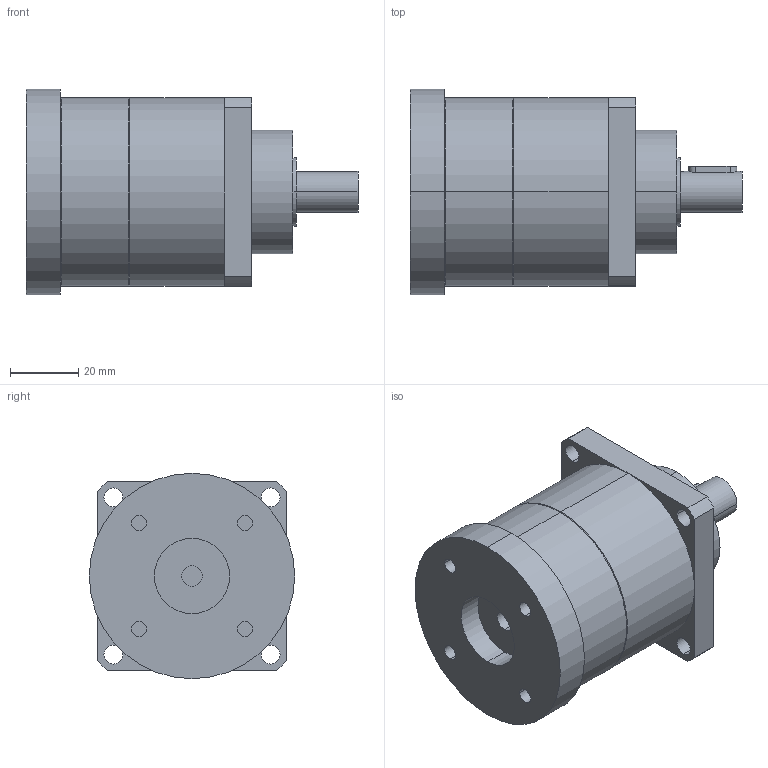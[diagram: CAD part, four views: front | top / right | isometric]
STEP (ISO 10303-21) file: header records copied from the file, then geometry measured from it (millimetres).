
FILE_DESCRIPTION(('CoCreate Modeling STEP Export'),'2;1');
FILE_NAME('GPT55_ig-3-4-5-7-10_12_B5A_6_P01.stp','2014-08-25T14:32:32',(''),(''),'CoCreate Modeling STEP processor for AP214 (Solid Model)','CoCreate Modeling 16.00C 25-Feb-2009 (C) Parametric Technology GmbH','');
FILE_SCHEMA(('AUTOMOTIVE_DESIGN { 1 0 10303 214 1 1 1 1 }'));
Length unit declared in the file: millimetre
Products named in the file (2): GPT55_ig-3-4-5-7-10_12_B5A_6_P01
Assembly tree (1 placements, depth 2):
  GPT55_ig-3-4-5-7-10_12_B5A_6_P01
    GPT55_ig-3-4-5-7-10_12_B5A_6_P01
Bounding box: 97 x 60 x 60 mm (x, y, z)
Volume: 176197.7 mm3; surface area: 23083.5 mm2
Topology: 1 solids, 1 shells, 69 faces, 174 edges, 119 vertices
Faces by surface type: cylinder 40, plane 25, cone 4
Entity records: 2177 total; most frequent: CARTESIAN_POINT 652, ORIENTED_EDGE 348, DIRECTION 260, EDGE_CURVE 174, VERTEX_POINT 119, AXIS2_PLACEMENT_3D 97, EDGE_LOOP 89, FACE_OUTER_BOUND 69
